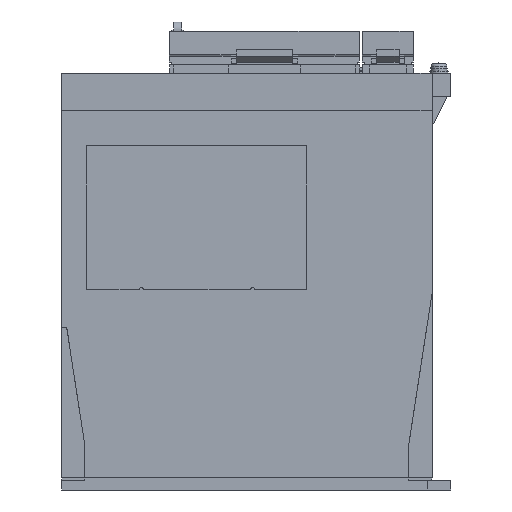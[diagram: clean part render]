
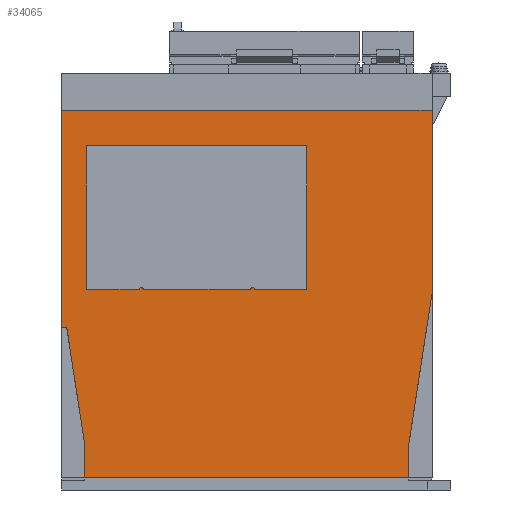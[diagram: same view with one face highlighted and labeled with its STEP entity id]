
A CAD part, left-side view. The second image highlights one B-rep face of the part: STEP entity #34065.
In plain terms, the highlighted planar face has unit normal (-1, 0, 0).
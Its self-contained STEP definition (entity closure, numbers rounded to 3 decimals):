
#7197=DIRECTION('',(0.,0.,-1.));
#7198=VECTOR('',#7197,93.9);
#7199=CARTESIAN_POINT('',(0.,160.,163.9));
#7200=LINE('',#7199,#7198);
#7269=DIRECTION('',(0.,1.,0.));
#7270=VECTOR('',#7269,140.);
#7271=CARTESIAN_POINT('',(0.,10.,5.3));
#7272=LINE('',#7271,#7270);
#7273=DIRECTION('',(0.,0.,1.));
#7274=VECTOR('',#7273,14.7);
#7275=CARTESIAN_POINT('',(0.,150.,5.3));
#7276=LINE('',#7275,#7274);
#7277=DIRECTION('',(0.,0.152,0.988));
#7278=VECTOR('',#7277,50.588);
#7279=CARTESIAN_POINT('',(0.,150.,20.));
#7280=LINE('',#7279,#7278);
#7281=DIRECTION('',(0.,1.,0.));
#7282=VECTOR('',#7281,2.308);
#7283=CARTESIAN_POINT('',(0.,157.692,70.));
#7284=LINE('',#7283,#7282);
#7285=DIRECTION('',(0.,-1.,0.));
#7286=VECTOR('',#7285,160.);
#7287=CARTESIAN_POINT('',(0.,160.,163.9));
#7288=LINE('',#7287,#7286);
#7289=DIRECTION('',(0.,0.152,-0.988));
#7290=VECTOR('',#7289,65.765);
#7291=CARTESIAN_POINT('',(0.,0.,85.));
#7292=LINE('',#7291,#7290);
#7293=CARTESIAN_POINT('',(0.,125.5,86.375));
#7294=DIRECTION('',(1.,0.,0.));
#7295=DIRECTION('',(0.,0.976,0.22));
#7296=AXIS2_PLACEMENT_3D('',#7293,#7294,#7295);
#7298=CARTESIAN_POINT('',(0.,125.5,86.375));
#7299=DIRECTION('',(1.,0.,0.));
#7300=DIRECTION('',(0.,0.,1.));
#7301=AXIS2_PLACEMENT_3D('',#7298,#7299,#7300);
#7303=CARTESIAN_POINT('',(0.,77.5,86.375));
#7304=DIRECTION('',(1.,0.,0.));
#7305=DIRECTION('',(0.,0.976,0.22));
#7306=AXIS2_PLACEMENT_3D('',#7303,#7304,#7305);
#7308=CARTESIAN_POINT('',(0.,77.5,86.375));
#7309=DIRECTION('',(1.,0.,0.));
#7310=DIRECTION('',(0.,0.,1.));
#7311=AXIS2_PLACEMENT_3D('',#7308,#7309,#7310);
#7396=DIRECTION('',(0.,0.,1.));
#7397=VECTOR('',#7396,78.9);
#7398=CARTESIAN_POINT('',(0.,0.,85.));
#7399=LINE('',#7398,#7397);
#7516=DIRECTION('',(0.,0.,1.));
#7517=VECTOR('',#7516,14.7);
#7518=CARTESIAN_POINT('',(0.,10.,5.3));
#7519=LINE('',#7518,#7517);
#8132=DIRECTION('',(0.,1.,0.));
#8133=VECTOR('',#8132,22.5);
#8134=CARTESIAN_POINT('',(0.,126.5,86.6));
#8135=LINE('',#8134,#8133);
#8200=DIRECTION('',(0.,1.,0.));
#8201=VECTOR('',#8200,22.5);
#8202=CARTESIAN_POINT('',(0.,54.,86.6));
#8203=LINE('',#8202,#8201);
#8204=DIRECTION('',(0.,0.,-1.));
#8205=VECTOR('',#8204,62.);
#8206=CARTESIAN_POINT('',(0.,54.,148.6));
#8207=LINE('',#8206,#8205);
#8212=DIRECTION('',(0.,-1.,0.));
#8213=VECTOR('',#8212,95.);
#8214=CARTESIAN_POINT('',(0.,149.,148.6));
#8215=LINE('',#8214,#8213);
#8220=DIRECTION('',(0.,0.,1.));
#8221=VECTOR('',#8220,62.);
#8222=CARTESIAN_POINT('',(0.,149.,86.6));
#8223=LINE('',#8222,#8221);
#8228=DIRECTION('',(0.,1.,0.));
#8229=VECTOR('',#8228,46.);
#8230=CARTESIAN_POINT('',(0.,78.5,86.6));
#8231=LINE('',#8230,#8229);
#17584=CARTESIAN_POINT('',(0.,0.,163.9));
#17585=VERTEX_POINT('',#17584);
#17586=CARTESIAN_POINT('',(0.,160.,163.9));
#17587=VERTEX_POINT('',#17586);
#17610=CARTESIAN_POINT('',(0.,160.,70.));
#17611=VERTEX_POINT('',#17610);
#17664=CARTESIAN_POINT('',(0.,150.,5.3));
#17665=VERTEX_POINT('',#17664);
#17666=CARTESIAN_POINT('',(0.,10.,5.3));
#17667=VERTEX_POINT('',#17666);
#17678=CARTESIAN_POINT('',(0.,157.692,70.));
#17679=VERTEX_POINT('',#17678);
#17680=CARTESIAN_POINT('',(0.,150.,20.));
#17681=VERTEX_POINT('',#17680);
#17690=CARTESIAN_POINT('',(0.,0.,85.));
#17691=VERTEX_POINT('',#17690);
#17692=CARTESIAN_POINT('',(0.,10.,20.));
#17693=VERTEX_POINT('',#17692);
#17694=CARTESIAN_POINT('',(0.,126.5,86.6));
#17695=CARTESIAN_POINT('',(0.,149.,86.6));
#17696=VERTEX_POINT('',#17694);
#17697=VERTEX_POINT('',#17695);
#17698=CARTESIAN_POINT('',(0.,125.5,87.4));
#17699=CARTESIAN_POINT('',(0.,124.5,86.6));
#17700=VERTEX_POINT('',#17698);
#17701=VERTEX_POINT('',#17699);
#17702=CARTESIAN_POINT('',(0.,78.5,86.6));
#17703=VERTEX_POINT('',#17702);
#17704=CARTESIAN_POINT('',(0.,77.5,87.4));
#17705=CARTESIAN_POINT('',(0.,76.5,86.6));
#17706=VERTEX_POINT('',#17704);
#17707=VERTEX_POINT('',#17705);
#17708=CARTESIAN_POINT('',(0.,54.,86.6));
#17709=VERTEX_POINT('',#17708);
#17710=CARTESIAN_POINT('',(0.,54.,148.6));
#17711=VERTEX_POINT('',#17710);
#17712=CARTESIAN_POINT('',(0.,149.,148.6));
#17713=VERTEX_POINT('',#17712);
#34023=CARTESIAN_POINT('',(0.,160.,0.));
#34024=DIRECTION('',(-1.,0.,0.));
#34025=DIRECTION('',(0.,-1.,0.));
#34026=AXIS2_PLACEMENT_3D('',#34023,#34024,#34025);
#34027=PLANE('',#34026);
#34028=ORIENTED_EDGE('',*,*,#33872,.T.);
#34030=ORIENTED_EDGE('',*,*,#34029,.T.);
#34031=ORIENTED_EDGE('',*,*,#33922,.T.);
#34032=ORIENTED_EDGE('',*,*,#34005,.T.);
#34033=ORIENTED_EDGE('',*,*,#33773,.F.);
#34034=ORIENTED_EDGE('',*,*,#33725,.T.);
#34036=ORIENTED_EDGE('',*,*,#34035,.F.);
#34038=ORIENTED_EDGE('',*,*,#34037,.T.);
#34040=ORIENTED_EDGE('',*,*,#34039,.F.);
#34041=EDGE_LOOP('',(#34028,#34030,#34031,#34032,#34033,#34034,#34036,#34038,
#34040));
#34042=FACE_OUTER_BOUND('',#34041,.F.);
#34044=ORIENTED_EDGE('',*,*,#34043,.F.);
#34046=ORIENTED_EDGE('',*,*,#34045,.T.);
#34048=ORIENTED_EDGE('',*,*,#34047,.T.);
#34050=ORIENTED_EDGE('',*,*,#34049,.F.);
#34052=ORIENTED_EDGE('',*,*,#34051,.T.);
#34054=ORIENTED_EDGE('',*,*,#34053,.T.);
#34056=ORIENTED_EDGE('',*,*,#34055,.F.);
#34058=ORIENTED_EDGE('',*,*,#34057,.F.);
#34060=ORIENTED_EDGE('',*,*,#34059,.F.);
#34062=ORIENTED_EDGE('',*,*,#34061,.F.);
#34063=EDGE_LOOP('',(#34044,#34046,#34048,#34050,#34052,#34054,#34056,#34058,
#34060,#34062));
#34064=FACE_BOUND('',#34063,.F.);
#7297=CIRCLE('',#7296,1.025);
#7302=CIRCLE('',#7301,1.025);
#7307=CIRCLE('',#7306,1.025);
#7312=CIRCLE('',#7311,1.025);
#33725=EDGE_CURVE('',#17587,#17585,#7288,.T.);
#33773=EDGE_CURVE('',#17587,#17611,#7200,.T.);
#33872=EDGE_CURVE('',#17667,#17665,#7272,.T.);
#33922=EDGE_CURVE('',#17681,#17679,#7280,.T.);
#34005=EDGE_CURVE('',#17679,#17611,#7284,.T.);
#34029=EDGE_CURVE('',#17665,#17681,#7276,.T.);
#34035=EDGE_CURVE('',#17691,#17585,#7399,.T.);
#34037=EDGE_CURVE('',#17691,#17693,#7292,.T.);
#34039=EDGE_CURVE('',#17667,#17693,#7519,.T.);
#34043=EDGE_CURVE('',#17696,#17697,#8135,.T.);
#34045=EDGE_CURVE('',#17696,#17700,#7297,.T.);
#34047=EDGE_CURVE('',#17700,#17701,#7302,.T.);
#34049=EDGE_CURVE('',#17703,#17701,#8231,.T.);
#34051=EDGE_CURVE('',#17703,#17706,#7307,.T.);
#34053=EDGE_CURVE('',#17706,#17707,#7312,.T.);
#34055=EDGE_CURVE('',#17709,#17707,#8203,.T.);
#34057=EDGE_CURVE('',#17711,#17709,#8207,.T.);
#34059=EDGE_CURVE('',#17713,#17711,#8215,.T.);
#34061=EDGE_CURVE('',#17697,#17713,#8223,.T.);
#34065=ADVANCED_FACE('',(#34042,#34064),#34027,.T.);
